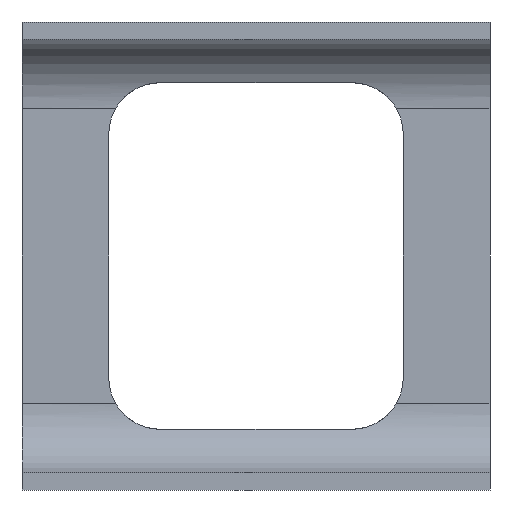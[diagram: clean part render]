
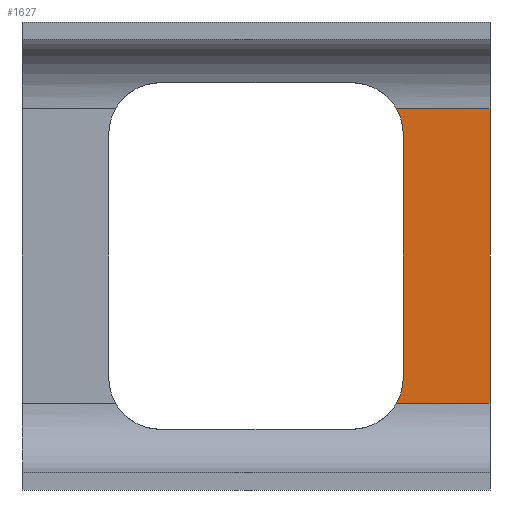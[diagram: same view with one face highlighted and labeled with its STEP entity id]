
A CAD part, left-side view. The second image highlights one B-rep face of the part: STEP entity #1627.
In plain terms, the highlighted planar face has unit normal (-1, 0, 0).
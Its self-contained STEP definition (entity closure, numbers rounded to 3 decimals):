
#44 = PLANE('',#45);
#45 = AXIS2_PLACEMENT_3D('',#46,#47,#48);
#46 = CARTESIAN_POINT('',(36.,-45.639,-13.5));
#47 = DIRECTION('',(0.,1.,0.));
#48 = DIRECTION('',(0.,0.,1.));
#192 = VERTEX_POINT('',#193);
#193 = CARTESIAN_POINT('',(43.,-45.639,-8.5));
#212 = CYLINDRICAL_SURFACE('',#213,4.);
#213 = AXIS2_PLACEMENT_3D('',#214,#215,#216);
#214 = CARTESIAN_POINT('',(39.,49.,-8.5));
#215 = DIRECTION('',(-0.,-1.,-0.));
#216 = DIRECTION('',(1.,0.,-0.));
#224 = EDGE_CURVE('',#192,#225,#227,.T.);
#225 = VERTEX_POINT('',#226);
#226 = CARTESIAN_POINT('',(43.,-45.639,8.5));
#227 = SURFACE_CURVE('',#228,(#232,#238),.PCURVE_S1.);
#228 = LINE('',#229,#230);
#229 = CARTESIAN_POINT('',(43.,-45.639,-13.));
#230 = VECTOR('',#231,1.);
#231 = DIRECTION('',(0.,0.,1.));
#232 = PCURVE('',#44,#233);
#233 = DEFINITIONAL_REPRESENTATION('',(#234),#237);
#234 = B_SPLINE_CURVE_WITH_KNOTS('',1,(#235,#236),.UNSPECIFIED.,.F.,.F.,
  (2,2),(4.5,21.5),.PIECEWISE_BEZIER_KNOTS.);
#235 = CARTESIAN_POINT('',(5.,7.));
#236 = CARTESIAN_POINT('',(22.,7.));
#237 = ( GEOMETRIC_REPRESENTATION_CONTEXT(2) 
PARAMETRIC_REPRESENTATION_CONTEXT() REPRESENTATION_CONTEXT('2D SPACE',''
  ) );
#238 = PCURVE('',#239,#244);
#239 = PLANE('',#240);
#240 = AXIS2_PLACEMENT_3D('',#241,#242,#243);
#241 = CARTESIAN_POINT('',(43.,-67.,-12.5));
#242 = DIRECTION('',(1.,0.,0.));
#243 = DIRECTION('',(0.,0.,1.));
#244 = DEFINITIONAL_REPRESENTATION('',(#245),#248);
#245 = B_SPLINE_CURVE_WITH_KNOTS('',1,(#246,#247),.UNSPECIFIED.,.F.,.F.,
  (2,2),(4.5,21.5),.PIECEWISE_BEZIER_KNOTS.);
#246 = CARTESIAN_POINT('',(4.,-21.361));
#247 = CARTESIAN_POINT('',(21.,-21.361));
#248 = ( GEOMETRIC_REPRESENTATION_CONTEXT(2) 
PARAMETRIC_REPRESENTATION_CONTEXT() REPRESENTATION_CONTEXT('2D SPACE',''
  ) );
#271 = CYLINDRICAL_SURFACE('',#272,4.);
#272 = AXIS2_PLACEMENT_3D('',#273,#274,#275);
#273 = CARTESIAN_POINT('',(39.,49.,8.5));
#274 = DIRECTION('',(-0.,-1.,-0.));
#275 = DIRECTION('',(1.,0.,-0.));
#854 = CYLINDRICAL_SURFACE('',#855,3.);
#855 = AXIS2_PLACEMENT_3D('',#856,#857,#858);
#856 = CARTESIAN_POINT('',(39.5,-37.639,-7.));
#857 = DIRECTION('',(1.,0.,0.));
#858 = DIRECTION('',(0.,0.,-1.));
#1030 = PLANE('',#1031);
#1031 = AXIS2_PLACEMENT_3D('',#1032,#1033,#1034);
#1032 = CARTESIAN_POINT('',(39.5,-40.639,10.));
#1033 = DIRECTION('',(0.,1.,0.));
#1034 = DIRECTION('',(1.,0.,0.));
#1058 = CYLINDRICAL_SURFACE('',#1059,3.);
#1059 = AXIS2_PLACEMENT_3D('',#1060,#1061,#1062);
#1060 = CARTESIAN_POINT('',(39.5,-37.639,7.));
#1061 = DIRECTION('',(1.,0.,0.));
#1062 = DIRECTION('',(0.,0.,1.));
#1426 = EDGE_CURVE('',#1427,#225,#1429,.T.);
#1427 = VERTEX_POINT('',#1428);
#1428 = CARTESIAN_POINT('',(43.,-40.237,8.5));
#1429 = SURFACE_CURVE('',#1430,(#1434,#1441),.PCURVE_S1.);
#1430 = LINE('',#1431,#1432);
#1431 = CARTESIAN_POINT('',(43.,49.,8.5));
#1432 = VECTOR('',#1433,1.);
#1433 = DIRECTION('',(-0.,-1.,-0.));
#1434 = PCURVE('',#271,#1435);
#1435 = DEFINITIONAL_REPRESENTATION('',(#1436),#1440);
#1436 = LINE('',#1437,#1438);
#1437 = CARTESIAN_POINT('',(0.,0.));
#1438 = VECTOR('',#1439,1.);
#1439 = DIRECTION('',(0.,1.));
#1440 = ( GEOMETRIC_REPRESENTATION_CONTEXT(2) 
PARAMETRIC_REPRESENTATION_CONTEXT() REPRESENTATION_CONTEXT('2D SPACE',''
  ) );
#1441 = PCURVE('',#239,#1442);
#1442 = DEFINITIONAL_REPRESENTATION('',(#1443),#1447);
#1443 = LINE('',#1444,#1445);
#1444 = CARTESIAN_POINT('',(21.,-116.));
#1445 = VECTOR('',#1446,1.);
#1446 = DIRECTION('',(-0.,1.));
#1447 = ( GEOMETRIC_REPRESENTATION_CONTEXT(2) 
PARAMETRIC_REPRESENTATION_CONTEXT() REPRESENTATION_CONTEXT('2D SPACE',''
  ) );
#1627 = ADVANCED_FACE('',(#1628),#239,.F.);
#1628 = FACE_BOUND('',#1629,.F.);
#1629 = EDGE_LOOP('',(#1630,#1631,#1654,#1678,#1699,#1721));
#1630 = ORIENTED_EDGE('',*,*,#224,.F.);
#1631 = ORIENTED_EDGE('',*,*,#1632,.F.);
#1632 = EDGE_CURVE('',#1633,#192,#1635,.T.);
#1633 = VERTEX_POINT('',#1634);
#1634 = CARTESIAN_POINT('',(43.,-40.237,-8.5));
#1635 = SURFACE_CURVE('',#1636,(#1640,#1647),.PCURVE_S1.);
#1636 = LINE('',#1637,#1638);
#1637 = CARTESIAN_POINT('',(43.,49.,-8.5));
#1638 = VECTOR('',#1639,1.);
#1639 = DIRECTION('',(-0.,-1.,-0.));
#1640 = PCURVE('',#239,#1641);
#1641 = DEFINITIONAL_REPRESENTATION('',(#1642),#1646);
#1642 = LINE('',#1643,#1644);
#1643 = CARTESIAN_POINT('',(4.,-116.));
#1644 = VECTOR('',#1645,1.);
#1645 = DIRECTION('',(-0.,1.));
#1646 = ( GEOMETRIC_REPRESENTATION_CONTEXT(2) 
PARAMETRIC_REPRESENTATION_CONTEXT() REPRESENTATION_CONTEXT('2D SPACE',''
  ) );
#1647 = PCURVE('',#212,#1648);
#1648 = DEFINITIONAL_REPRESENTATION('',(#1649),#1653);
#1649 = LINE('',#1650,#1651);
#1650 = CARTESIAN_POINT('',(-0.,0.));
#1651 = VECTOR('',#1652,1.);
#1652 = DIRECTION('',(-0.,1.));
#1653 = ( GEOMETRIC_REPRESENTATION_CONTEXT(2) 
PARAMETRIC_REPRESENTATION_CONTEXT() REPRESENTATION_CONTEXT('2D SPACE',''
  ) );
#1654 = ORIENTED_EDGE('',*,*,#1655,.F.);
#1655 = EDGE_CURVE('',#1656,#1633,#1658,.T.);
#1656 = VERTEX_POINT('',#1657);
#1657 = CARTESIAN_POINT('',(43.,-40.639,-7.));
#1658 = SURFACE_CURVE('',#1659,(#1664,#1671),.PCURVE_S1.);
#1659 = CIRCLE('',#1660,3.);
#1660 = AXIS2_PLACEMENT_3D('',#1661,#1662,#1663);
#1661 = CARTESIAN_POINT('',(43.,-37.639,-7.));
#1662 = DIRECTION('',(1.,0.,0.));
#1663 = DIRECTION('',(0.,0.,-1.));
#1664 = PCURVE('',#239,#1665);
#1665 = DEFINITIONAL_REPRESENTATION('',(#1666),#1670);
#1666 = CIRCLE('',#1667,3.);
#1667 = AXIS2_PLACEMENT_2D('',#1668,#1669);
#1668 = CARTESIAN_POINT('',(5.5,-29.361));
#1669 = DIRECTION('',(-1.,0.));
#1670 = ( GEOMETRIC_REPRESENTATION_CONTEXT(2) 
PARAMETRIC_REPRESENTATION_CONTEXT() REPRESENTATION_CONTEXT('2D SPACE',''
  ) );
#1671 = PCURVE('',#854,#1672);
#1672 = DEFINITIONAL_REPRESENTATION('',(#1673),#1677);
#1673 = LINE('',#1674,#1675);
#1674 = CARTESIAN_POINT('',(-6.283,3.5));
#1675 = VECTOR('',#1676,1.);
#1676 = DIRECTION('',(1.,-0.));
#1677 = ( GEOMETRIC_REPRESENTATION_CONTEXT(2) 
PARAMETRIC_REPRESENTATION_CONTEXT() REPRESENTATION_CONTEXT('2D SPACE',''
  ) );
#1678 = ORIENTED_EDGE('',*,*,#1679,.T.);
#1679 = EDGE_CURVE('',#1656,#1680,#1682,.T.);
#1680 = VERTEX_POINT('',#1681);
#1681 = CARTESIAN_POINT('',(43.,-40.639,7.));
#1682 = SURFACE_CURVE('',#1683,(#1687,#1693),.PCURVE_S1.);
#1683 = LINE('',#1684,#1685);
#1684 = CARTESIAN_POINT('',(43.,-40.639,-1.25));
#1685 = VECTOR('',#1686,1.);
#1686 = DIRECTION('',(0.,0.,1.));
#1687 = PCURVE('',#239,#1688);
#1688 = DEFINITIONAL_REPRESENTATION('',(#1689),#1692);
#1689 = B_SPLINE_CURVE_WITH_KNOTS('',1,(#1690,#1691),.UNSPECIFIED.,.F.,
  .F.,(2,2),(-5.75,8.25),.PIECEWISE_BEZIER_KNOTS.);
#1690 = CARTESIAN_POINT('',(5.5,-26.361));
#1691 = CARTESIAN_POINT('',(19.5,-26.361));
#1692 = ( GEOMETRIC_REPRESENTATION_CONTEXT(2) 
PARAMETRIC_REPRESENTATION_CONTEXT() REPRESENTATION_CONTEXT('2D SPACE',''
  ) );
#1693 = PCURVE('',#1030,#1694);
#1694 = DEFINITIONAL_REPRESENTATION('',(#1695),#1698);
#1695 = B_SPLINE_CURVE_WITH_KNOTS('',1,(#1696,#1697),.UNSPECIFIED.,.F.,
  .F.,(2,2),(-5.75,8.25),.PIECEWISE_BEZIER_KNOTS.);
#1696 = CARTESIAN_POINT('',(3.5,17.));
#1697 = CARTESIAN_POINT('',(3.5,3.));
#1698 = ( GEOMETRIC_REPRESENTATION_CONTEXT(2) 
PARAMETRIC_REPRESENTATION_CONTEXT() REPRESENTATION_CONTEXT('2D SPACE',''
  ) );
#1699 = ORIENTED_EDGE('',*,*,#1700,.F.);
#1700 = EDGE_CURVE('',#1427,#1680,#1701,.T.);
#1701 = SURFACE_CURVE('',#1702,(#1707,#1714),.PCURVE_S1.);
#1702 = CIRCLE('',#1703,3.);
#1703 = AXIS2_PLACEMENT_3D('',#1704,#1705,#1706);
#1704 = CARTESIAN_POINT('',(43.,-37.639,7.));
#1705 = DIRECTION('',(1.,0.,0.));
#1706 = DIRECTION('',(0.,0.,1.));
#1707 = PCURVE('',#239,#1708);
#1708 = DEFINITIONAL_REPRESENTATION('',(#1709),#1713);
#1709 = CIRCLE('',#1710,3.);
#1710 = AXIS2_PLACEMENT_2D('',#1711,#1712);
#1711 = CARTESIAN_POINT('',(19.5,-29.361));
#1712 = DIRECTION('',(1.,0.));
#1713 = ( GEOMETRIC_REPRESENTATION_CONTEXT(2) 
PARAMETRIC_REPRESENTATION_CONTEXT() REPRESENTATION_CONTEXT('2D SPACE',''
  ) );
#1714 = PCURVE('',#1058,#1715);
#1715 = DEFINITIONAL_REPRESENTATION('',(#1716),#1720);
#1716 = LINE('',#1717,#1718);
#1717 = CARTESIAN_POINT('',(0.,3.5));
#1718 = VECTOR('',#1719,1.);
#1719 = DIRECTION('',(1.,0.));
#1720 = ( GEOMETRIC_REPRESENTATION_CONTEXT(2) 
PARAMETRIC_REPRESENTATION_CONTEXT() REPRESENTATION_CONTEXT('2D SPACE',''
  ) );
#1721 = ORIENTED_EDGE('',*,*,#1426,.T.);
